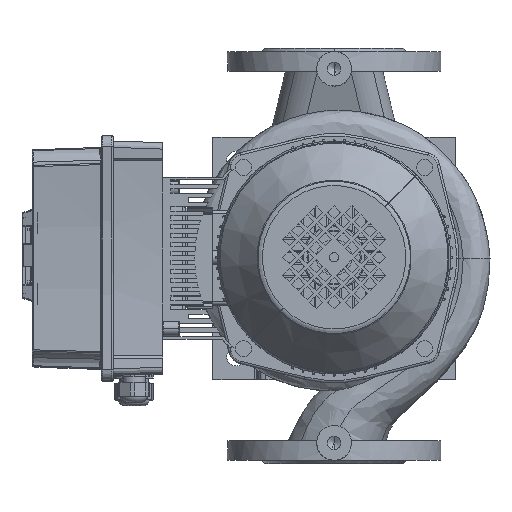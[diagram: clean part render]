
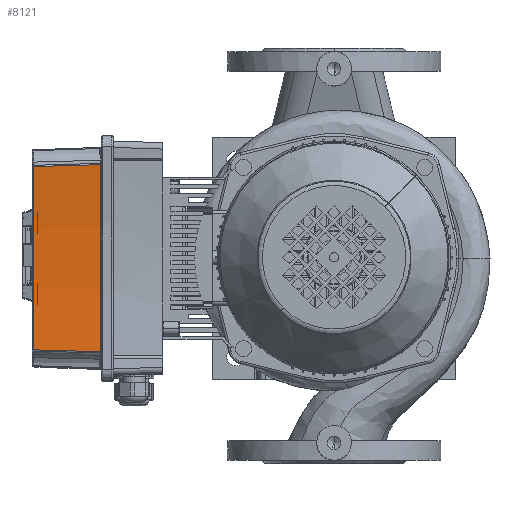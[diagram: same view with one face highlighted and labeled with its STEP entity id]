
A CAD part, top view. The second image highlights one B-rep face of the part: STEP entity #8121.
In plain terms, the highlighted conical face has half-angle 2 degrees and reference radius 845 mm.
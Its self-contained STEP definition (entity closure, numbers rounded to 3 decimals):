
#8121=ADVANCED_FACE('',(#16578),#16579,.F.);
#16578=FACE_OUTER_BOUND('',#38472,.T.);
#16579=CONICAL_SURFACE('',#38473,845.0,0.035);
#38472=EDGE_LOOP('',(#60231,#60232,#60233,#60234));
#38473=AXIS2_PLACEMENT_3D('',#60235,#60236,#60237);
#60231=ORIENTED_EDGE('',*,*,#94681,.F.);
#60232=ORIENTED_EDGE('',*,*,#94736,.F.);
#60233=ORIENTED_EDGE('',*,*,#94697,.F.);
#60234=ORIENTED_EDGE('',*,*,#94725,.F.);
#60235=CARTESIAN_POINT('',(-110.0,1132.065,60.0));
#60236=DIRECTION('',(0.,-0.0,-1.0));
#60237=DIRECTION('',(1.0,0.0,0.));
#94681=EDGE_CURVE('',#122844,#122850,#122851,.T.);
#94697=EDGE_CURVE('',#122871,#122863,#122873,.T.);
#94725=EDGE_CURVE('',#122850,#122871,#122903,.T.);
#94736=EDGE_CURVE('',#122863,#122844,#122915,.T.);
#122844=VERTEX_POINT('',#149376);
#122850=VERTEX_POINT('',#149418);
#122851=B_SPLINE_CURVE_WITH_KNOTS('',3,(#149419,#149420,#149421,#149422,#149423,#149424,#149425,#149426,#149427,#149428,#149429,#149430,#149431,#149432,#149433,#149434,#149435,#149436,#149437,#149438,#149439,#149440,#149441,#149442,#149443),.UNSPECIFIED.,.F.,.F.,(4,3,3,3,3,3,3,3,4),(-60.14,-51.629,-41.43,-35.057,-31.073,-27.089,-20.715,-10.517,-2.006),.UNSPECIFIED.);
#122863=VERTEX_POINT('',#149532);
#122871=VERTEX_POINT('',#149593);
#122873=B_SPLINE_CURVE_WITH_KNOTS('',3,(#149608,#149609,#149610,#149611,#149612,#149613,#149614,#149615,#149616,#149617,#149618,#149619,#149620,#149621,#149622,#149623,#149624,#149625,#149626,#149627,#149628,#149629,#149630,#149631,#149632),.UNSPECIFIED.,.F.,.F.,(4,3,3,3,3,3,3,3,4),(2.006,10.517,20.716,27.09,31.073,35.057,41.431,51.63,60.14),.UNSPECIFIED.);
#122903=CIRCLE('',#149823,847.062);
#122915=CIRCLE('',#149851,845.034);
#149376=CARTESIAN_POINT('',(-190.987,290.921,59.035));
#149418=CARTESIAN_POINT('',(-189.365,288.73,0.965));
#149419=CARTESIAN_POINT('',(-190.987,290.921,59.035));
#149420=CARTESIAN_POINT('',(-190.902,290.814,56.201));
#149421=CARTESIAN_POINT('',(-190.819,290.706,53.368));
#149422=CARTESIAN_POINT('',(-190.736,290.599,50.534));
#149423=CARTESIAN_POINT('',(-190.637,290.47,47.138));
#149424=CARTESIAN_POINT('',(-190.539,290.342,43.743));
#149425=CARTESIAN_POINT('',(-190.442,290.214,40.347));
#149426=CARTESIAN_POINT('',(-190.381,290.133,38.225));
#149427=CARTESIAN_POINT('',(-190.321,290.053,36.103));
#149428=CARTESIAN_POINT('',(-190.261,289.973,33.98));
#149429=CARTESIAN_POINT('',(-190.224,289.923,32.654));
#149430=CARTESIAN_POINT('',(-190.187,289.873,31.327));
#149431=CARTESIAN_POINT('',(-190.15,289.823,30.001));
#149432=CARTESIAN_POINT('',(-190.113,289.773,28.675));
#149433=CARTESIAN_POINT('',(-190.076,289.723,27.348));
#149434=CARTESIAN_POINT('',(-190.04,289.673,26.022));
#149435=CARTESIAN_POINT('',(-189.981,289.593,23.899));
#149436=CARTESIAN_POINT('',(-189.923,289.513,21.777));
#149437=CARTESIAN_POINT('',(-189.865,289.433,19.655));
#149438=CARTESIAN_POINT('',(-189.772,289.305,16.259));
#149439=CARTESIAN_POINT('',(-189.681,289.177,12.863));
#149440=CARTESIAN_POINT('',(-189.59,289.049,9.467));
#149441=CARTESIAN_POINT('',(-189.515,288.943,6.633));
#149442=CARTESIAN_POINT('',(-189.44,288.836,3.799));
#149443=CARTESIAN_POINT('',(-189.365,288.73,0.965));
#149532=CARTESIAN_POINT('',(-29.013,290.921,59.035));
#149593=CARTESIAN_POINT('',(-30.635,288.73,0.965));
#149608=CARTESIAN_POINT('',(-30.635,288.73,0.965));
#149609=CARTESIAN_POINT('',(-30.56,288.836,3.799));
#149610=CARTESIAN_POINT('',(-30.485,288.943,6.633));
#149611=CARTESIAN_POINT('',(-30.41,289.049,9.467));
#149612=CARTESIAN_POINT('',(-30.319,289.177,12.863));
#149613=CARTESIAN_POINT('',(-30.228,289.305,16.259));
#149614=CARTESIAN_POINT('',(-30.135,289.433,19.654));
#149615=CARTESIAN_POINT('',(-30.077,289.513,21.777));
#149616=CARTESIAN_POINT('',(-30.019,289.593,23.899));
#149617=CARTESIAN_POINT('',(-29.96,289.673,26.022));
#149618=CARTESIAN_POINT('',(-29.924,289.723,27.348));
#149619=CARTESIAN_POINT('',(-29.887,289.773,28.674));
#149620=CARTESIAN_POINT('',(-29.85,289.823,30.001));
#149621=CARTESIAN_POINT('',(-29.813,289.873,31.327));
#149622=CARTESIAN_POINT('',(-29.776,289.923,32.654));
#149623=CARTESIAN_POINT('',(-29.739,289.973,33.98));
#149624=CARTESIAN_POINT('',(-29.679,290.053,36.103));
#149625=CARTESIAN_POINT('',(-29.619,290.133,38.225));
#149626=CARTESIAN_POINT('',(-29.558,290.214,40.347));
#149627=CARTESIAN_POINT('',(-29.461,290.342,43.743));
#149628=CARTESIAN_POINT('',(-29.363,290.47,47.139));
#149629=CARTESIAN_POINT('',(-29.264,290.599,50.534));
#149630=CARTESIAN_POINT('',(-29.181,290.706,53.368));
#149631=CARTESIAN_POINT('',(-29.098,290.814,56.201));
#149632=CARTESIAN_POINT('',(-29.013,290.921,59.035));
#149823=AXIS2_PLACEMENT_3D('',#179094,#179095,#179096);
#149851=AXIS2_PLACEMENT_3D('',#179106,#179107,#179108);
#179094=CARTESIAN_POINT('',(-110.0,1132.065,0.965));
#179095=DIRECTION('',(0.,0.,1.0));
#179096=DIRECTION('',(0.0,-1.0,0.));
#179106=CARTESIAN_POINT('',(-110.0,1132.065,59.035));
#179107=DIRECTION('',(-0.0,-0.0,-1.0));
#179108=DIRECTION('',(0.0,-1.0,0.0));
